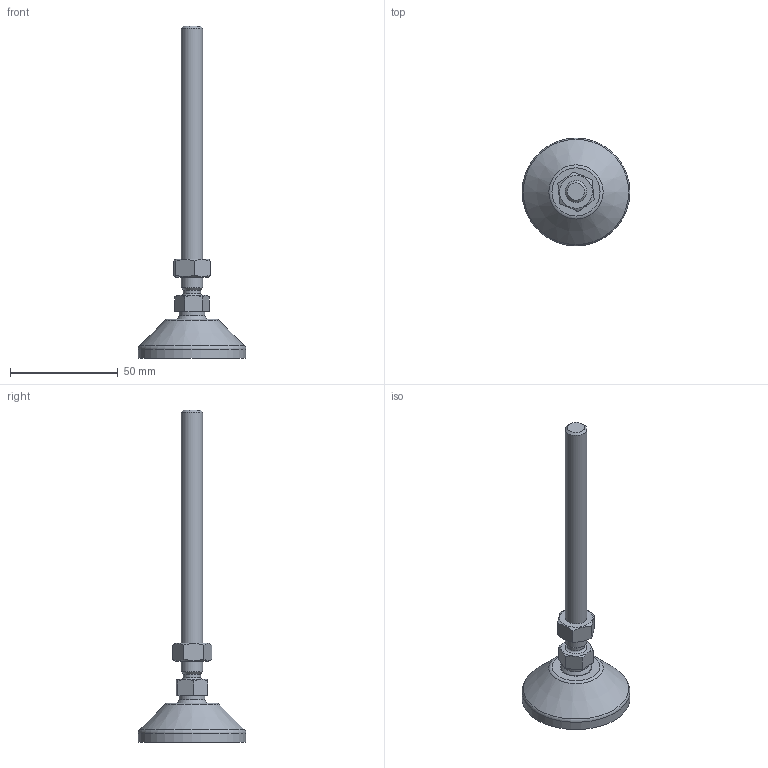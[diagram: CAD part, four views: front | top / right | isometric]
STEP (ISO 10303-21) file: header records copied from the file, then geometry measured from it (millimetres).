
FILE_DESCRIPTION(('STEP AP203'), '1');
FILE_NAME('栖闉罻', '', ('UNSPECIFIED'), ('UNSPECIFIED'), 'C3D Converter', 'C3D Toolkit', '');
FILE_SCHEMA(('CONFIG_CONTROL_DESIGN'));
Length unit declared in the file: millimetre
Products named in the file (4): A00015.1050; A00020.110125
Assembly tree (3 placements, depth 3):
  (unnamed)
    A00015.1050
    A00020.110125
      (unnamed)
Bounding box: 50 x 50 x 154 mm (x, y, z)
Volume: 29560.6 mm3; surface area: 13849.3 mm2
Topology: 3 solids, 3 shells, 182 faces, 487 edges, 323 vertices
Faces by surface type: plane 86, cylinder 50, torus 30, cone 14, sphere 2
Full cylindrical faces by diameter (mm): 4 x8, 8 x1, 8.376 x1, 10 x1, 12 x1, 14.3 x1, 15 x2, 15.5 x1, 39 x1, 50 x1
Entity records: 9361 total; most frequent: CARTESIAN_POINT 3268, DIRECTION 934, ORIENTED_EDGE 904, EDGE_CURVE 452, AXIS2_PLACEMENT_3D 386, VERTEX_POINT 322, EDGE_LOOP 230, CIRCLE 200
